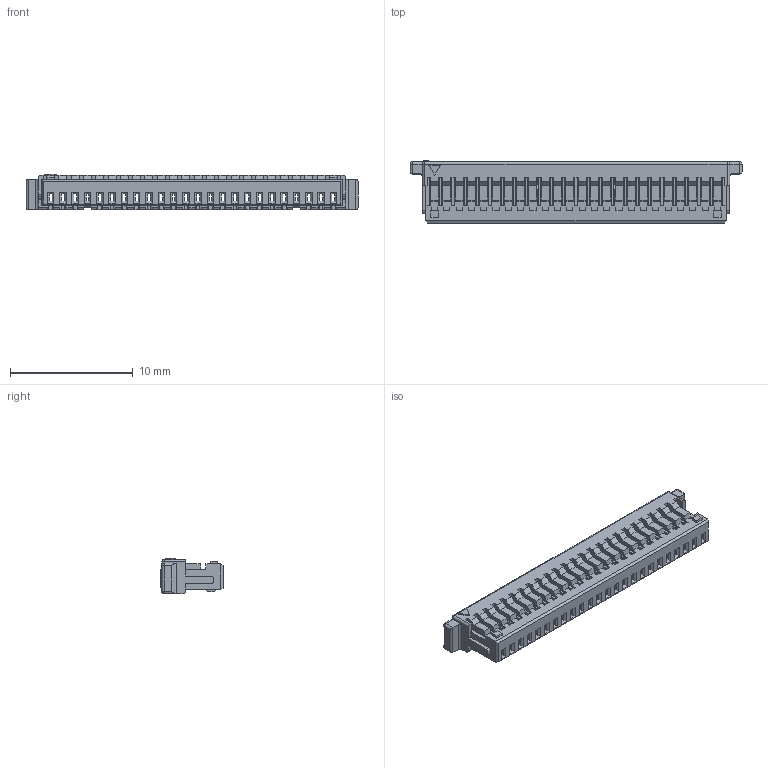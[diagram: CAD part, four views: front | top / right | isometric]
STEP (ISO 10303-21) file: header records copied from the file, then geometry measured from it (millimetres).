
FILE_DESCRIPTION((''),'2;1');
FILE_NAME('12','2012-01-06T',('12236126'),(''),'PRO/ENGINEER BY PARAMETRIC TECHNOLOGY CORPORATION, 2009360','PRO/ENGINEER BY PARAMETRIC TECHNOLOGY CORPORATION, 2009360','');
FILE_SCHEMA(('CONFIG_CONTROL_DESIGN'));
Length unit declared in the file: millimetre
Products named in the file (1): 12
Bounding box: 27 x 5.07 x 2.9 mm (x, y, z)
Volume: 145 mm3; surface area: 982 mm2
Topology: 1 solids, 1 shells, 1429 faces, 4079 edges, 2630 vertices
Faces by surface type: plane 1330, cylinder 93, sphere 6
Entity records: 45659 total; most frequent: CARTESIAN_POINT 8244, ORIENTED_EDGE 8146, DIRECTION 7083, EDGE_CURVE 4073, VECTOR 3893, LINE 3893, VERTEX_POINT 2630, AXIS2_PLACEMENT_3D 1595
